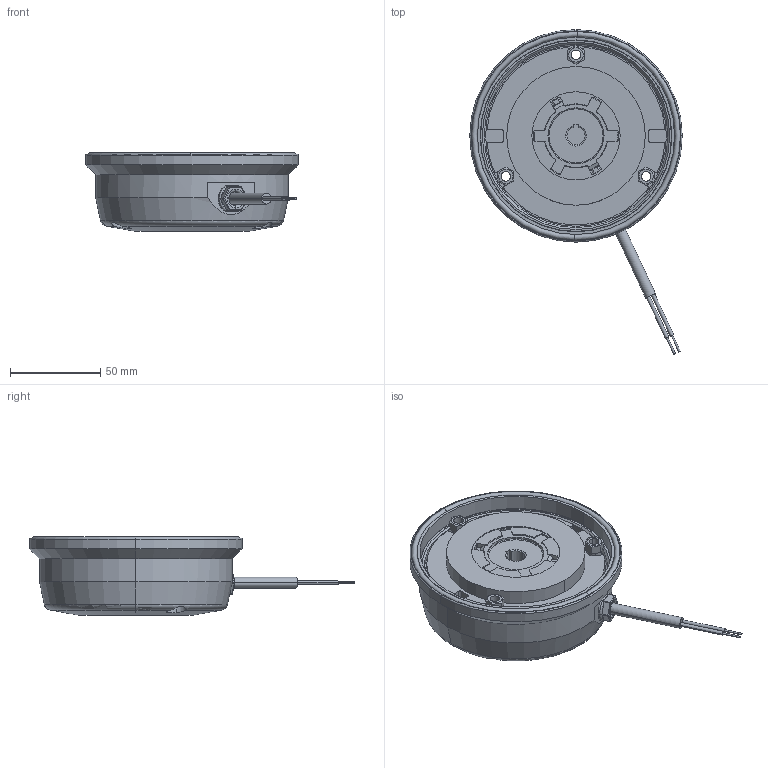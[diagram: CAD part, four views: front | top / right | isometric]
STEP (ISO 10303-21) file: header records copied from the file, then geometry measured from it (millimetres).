
FILE_DESCRIPTION (( 'STEP AP214' ), '1' );
FILE_NAME ('dr_bk_0328_mu.STEP', '2021-11-08T14:00:35', ( '' ), ( '' ), 'SwSTEP 2.0', 'SolidWorks 2019', '' );
FILE_SCHEMA (( 'AUTOMOTIVE_DESIGN' ));
Length unit declared in the file: millimetre
Products named in the file (8): 10068362_000; 10068366_000; 10068608_000; 10068609_000; 10068607_000; dr_bk_0328_mu; 10068364_000; 10068365_000
Assembly tree (9 placements, depth 2):
  dr_bk_0328_mu
    10068607_000
    10068365_000
    10068362_000  x3
    10068364_000
    10068366_000
    10068608_000
    10068609_000
Bounding box: 118 x 180.32 x 43.4 mm (x, y, z)
Volume: 320071.2 mm3; surface area: 85132.3 mm2
Topology: 11 solids, 11 shells, 494 faces, 1233 edges, 782 vertices
Faces by surface type: cylinder 240, plane 139, cone 46, torus 39, bspline 24, sphere 6
Entity records: 17064 total; most frequent: CARTESIAN_POINT 3873, DIRECTION 2400, ORIENTED_EDGE 2294, EDGE_CURVE 1147, AXIS2_PLACEMENT_3D 968, VERTEX_POINT 730, CIRCLE 520, EDGE_LOOP 505
